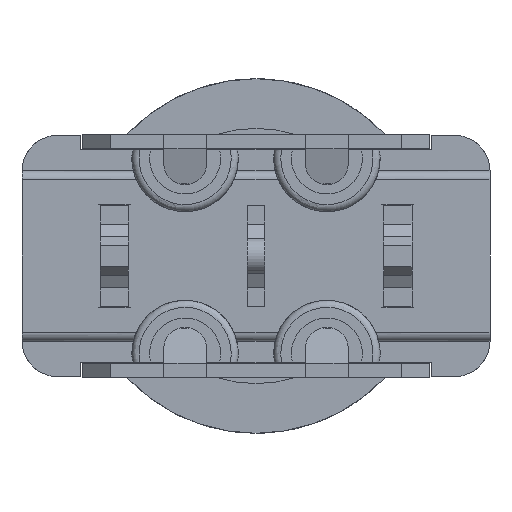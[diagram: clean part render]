
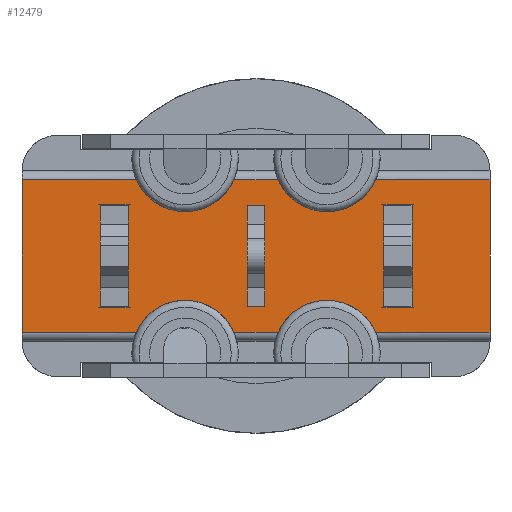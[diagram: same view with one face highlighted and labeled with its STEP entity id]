
A CAD part, front view. The second image highlights one B-rep face of the part: STEP entity #12479.
In plain terms, the highlighted planar face has unit normal (0, -1, 0).
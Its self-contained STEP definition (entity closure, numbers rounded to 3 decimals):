
#1339=CARTESIAN_POINT('',(-0.625,-10.9,2.15));
#1366=CARTESIAN_POINT('',(0.625,-10.9,2.15));
#1368=DIRECTION('',(-1.,0.,0.));
#1369=VECTOR('',#1368,1.25);
#1370=CARTESIAN_POINT('',(0.625,-10.9,2.15));
#1371=LINE('',#1370,#1369);
#1385=CARTESIAN_POINT('',(3.375,-10.9,2.15));
#1407=DIRECTION('',(-1.,0.,0.));
#1408=VECTOR('',#1407,3.225);
#1409=CARTESIAN_POINT('',(6.6,-10.9,2.15));
#1410=LINE('',#1409,#1408);
#1442=CARTESIAN_POINT('',(3.375,-10.9,-2.15));
#1444=DIRECTION('',(1.,0.,0.));
#1445=VECTOR('',#1444,3.225);
#1446=CARTESIAN_POINT('',(3.375,-10.9,-2.15));
#1447=LINE('',#1446,#1445);
#1461=CARTESIAN_POINT('',(0.625,-10.9,-2.15));
#1488=CARTESIAN_POINT('',(-0.625,-10.9,-2.15));
#1490=DIRECTION('',(1.,0.,0.));
#1491=VECTOR('',#1490,1.25);
#1492=CARTESIAN_POINT('',(-0.625,-10.9,-2.15));
#1493=LINE('',#1492,#1491);
#1507=CARTESIAN_POINT('',(-3.375,-10.9,-2.15));
#1529=DIRECTION('',(1.,0.,0.));
#1530=VECTOR('',#1529,3.225);
#1531=CARTESIAN_POINT('',(-6.6,-10.9,-2.15));
#1532=LINE('',#1531,#1530);
#1566=DIRECTION('',(-1.,0.,0.));
#1567=VECTOR('',#1566,3.225);
#1568=CARTESIAN_POINT('',(-3.375,-10.9,2.15));
#1569=LINE('',#1568,#1567);
#1570=CARTESIAN_POINT('',(-2.,-10.9,2.75));
#1571=DIRECTION('',(0.,-1.,0.));
#1572=DIRECTION('',(-0.917,0.,-0.4));
#1573=AXIS2_PLACEMENT_3D('',#1570,#1571,#1572);
#1575=CARTESIAN_POINT('',(2.,-10.9,2.75));
#1576=DIRECTION('',(0.,-1.,0.));
#1577=DIRECTION('',(-0.917,0.,-0.4));
#1578=AXIS2_PLACEMENT_3D('',#1575,#1576,#1577);
#1580=DIRECTION('',(0.,0.,-1.));
#1581=VECTOR('',#1580,4.3);
#1582=CARTESIAN_POINT('',(6.6,-10.9,2.15));
#1583=LINE('',#1582,#1581);
#1584=CARTESIAN_POINT('',(2.,-10.9,-2.75));
#1585=DIRECTION('',(0.,-1.,0.));
#1586=DIRECTION('',(0.917,0.,0.4));
#1587=AXIS2_PLACEMENT_3D('',#1584,#1585,#1586);
#1589=CARTESIAN_POINT('',(-2.,-10.9,-2.75));
#1590=DIRECTION('',(0.,-1.,0.));
#1591=DIRECTION('',(0.917,0.,0.4));
#1592=AXIS2_PLACEMENT_3D('',#1589,#1590,#1591);
#1594=DIRECTION('',(0.,0.,1.));
#1595=VECTOR('',#1594,4.3);
#1596=CARTESIAN_POINT('',(-6.6,-10.9,-2.15));
#1597=LINE('',#1596,#1595);
#9106=VERTEX_POINT('',#1339);
#9107=CARTESIAN_POINT('',(-3.375,-10.9,2.15));
#9108=VERTEX_POINT('',#9107);
#9122=VERTEX_POINT('',#1366);
#9127=VERTEX_POINT('',#1385);
#9140=CARTESIAN_POINT('',(6.6,-10.9,2.15));
#9141=VERTEX_POINT('',#9140);
#9144=CARTESIAN_POINT('',(6.6,-10.9,-2.15));
#9145=VERTEX_POINT('',#9144);
#9150=VERTEX_POINT('',#1442);
#9155=VERTEX_POINT('',#1461);
#9170=VERTEX_POINT('',#1488);
#9175=VERTEX_POINT('',#1507);
#9188=CARTESIAN_POINT('',(-6.6,-10.9,-2.15));
#9189=VERTEX_POINT('',#9188);
#9191=CARTESIAN_POINT('',(-6.6,-10.9,2.15));
#9193=VERTEX_POINT('',#9191);
#12460=CARTESIAN_POINT('',(-6.6,-10.9,3.4));
#12461=DIRECTION('',(0.,-1.,0.));
#12462=DIRECTION('',(1.,0.,0.));
#12463=AXIS2_PLACEMENT_3D('',#12460,#12461,#12462);
#12464=PLANE('',#12463);
#12465=ORIENTED_EDGE('',*,*,#12443,.F.);
#12466=ORIENTED_EDGE('',*,*,#12124,.T.);
#12467=ORIENTED_EDGE('',*,*,#12172,.F.);
#12468=ORIENTED_EDGE('',*,*,#12187,.T.);
#12469=ORIENTED_EDGE('',*,*,#12235,.F.);
#12470=ORIENTED_EDGE('',*,*,#12255,.T.);
#12471=ORIENTED_EDGE('',*,*,#12284,.F.);
#12472=ORIENTED_EDGE('',*,*,#12298,.T.);
#12473=ORIENTED_EDGE('',*,*,#12346,.F.);
#12474=ORIENTED_EDGE('',*,*,#12361,.T.);
#12475=ORIENTED_EDGE('',*,*,#12409,.F.);
#12476=ORIENTED_EDGE('',*,*,#12422,.T.);
#12477=EDGE_LOOP('',(#12465,#12466,#12467,#12468,#12469,#12470,#12471,#12472,
#12473,#12474,#12475,#12476));
#12478=FACE_OUTER_BOUND('',#12477,.F.);
#12479=ADVANCED_FACE('',(#12478),#12464,.T.);
#1574=CIRCLE('',#1573,1.5);
#1579=CIRCLE('',#1578,1.5);
#1588=CIRCLE('',#1587,1.5);
#1593=CIRCLE('',#1592,1.5);
#12124=EDGE_CURVE('',#9108,#9106,#1574,.T.);
#12172=EDGE_CURVE('',#9122,#9106,#1371,.T.);
#12187=EDGE_CURVE('',#9122,#9127,#1579,.T.);
#12235=EDGE_CURVE('',#9141,#9127,#1410,.T.);
#12255=EDGE_CURVE('',#9141,#9145,#1583,.T.);
#12284=EDGE_CURVE('',#9150,#9145,#1447,.T.);
#12298=EDGE_CURVE('',#9150,#9155,#1588,.T.);
#12346=EDGE_CURVE('',#9170,#9155,#1493,.T.);
#12361=EDGE_CURVE('',#9170,#9175,#1593,.T.);
#12409=EDGE_CURVE('',#9189,#9175,#1532,.T.);
#12422=EDGE_CURVE('',#9189,#9193,#1597,.T.);
#12443=EDGE_CURVE('',#9108,#9193,#1569,.T.);
